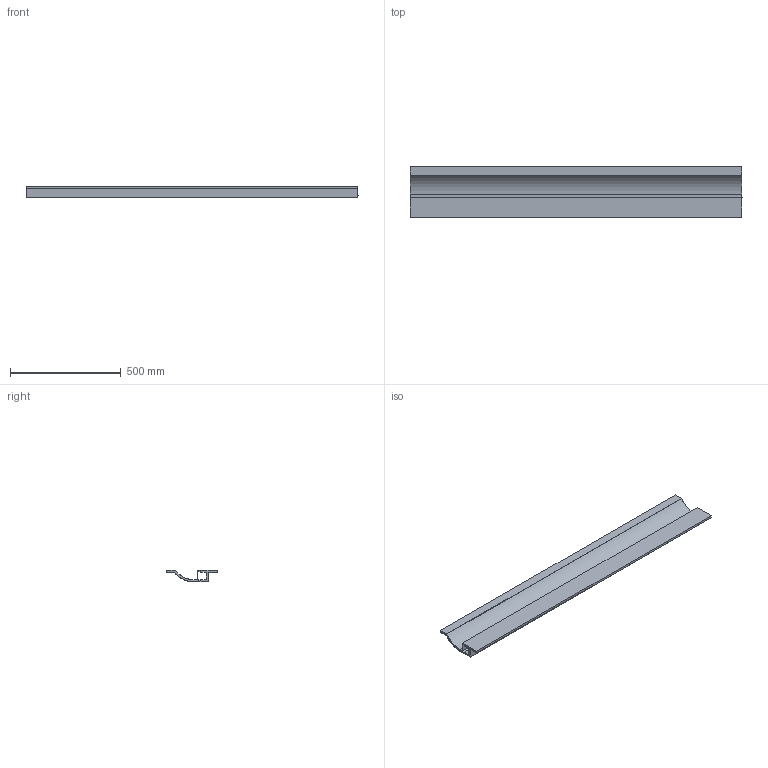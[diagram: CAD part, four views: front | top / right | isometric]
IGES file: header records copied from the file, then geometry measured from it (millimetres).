
Start section: SolidWorks IGES file using analytic representation for surfaces
Global section: file name: C:\Users\Stagiaire\Desktop\Rendu 3D\Mini BLADE\760_Mini_BLADE.IGS; native system: SolidWorks 2014; preprocessor: SolidWorks 2014; author: Stagiaire; date: 140915.120107; units: millimetre
Bounding box: 1500 x 230 x 53.56 mm (x, y, z)
Surface area: 1196769.9 mm2 (no closed solid volume)
Topology: 0 solids, 0 shells, 38 faces, 290 edges, 290 vertices
Faces by surface type: bspline 29, revolution 9
